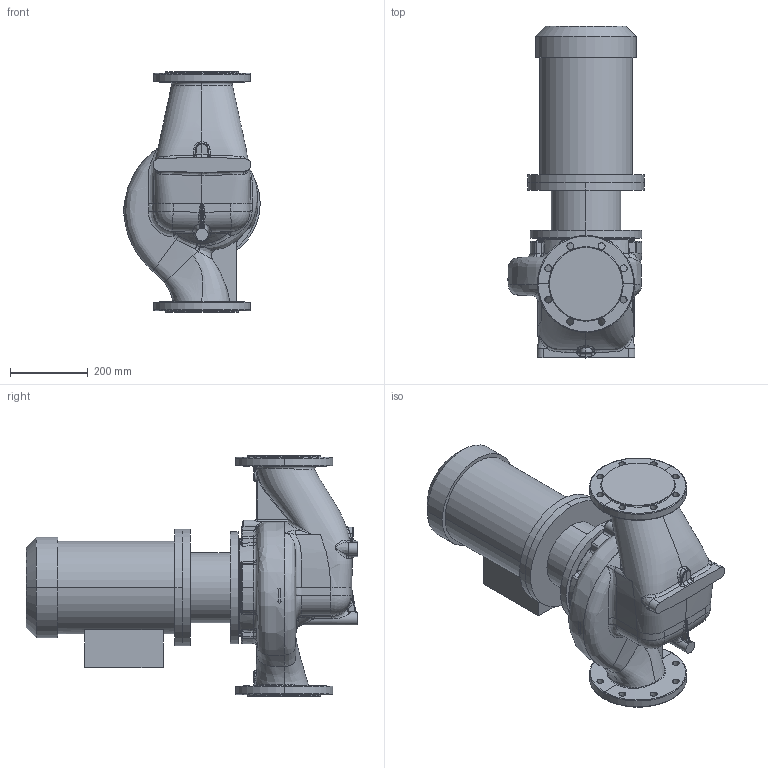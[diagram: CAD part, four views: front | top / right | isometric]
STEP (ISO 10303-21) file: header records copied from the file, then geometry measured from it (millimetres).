
FILE_DESCRIPTION (( 'STEP AP203' ), '1' );
FILE_NAME ('KRL 125-160-185_4-5,5.STEP', '2026-05-12T13:35:37', ( '' ), ( '' ), 'SwSTEP 2.0', 'SolidWorks 2016', '' );
FILE_SCHEMA (( 'CONFIG_CONTROL_DESIGN' ));
Length unit declared in the file: millimetre
Products named in the file (1): KRL 125-160-185_4-5,5
Bounding box: 351.32 x 854.8 x 620 mm (x, y, z)
Volume: 54246589.2 mm3; surface area: 1734412.7 mm2
Topology: 4 solids, 4 shells, 630 faces, 1557 edges, 939 vertices
Faces by surface type: bspline 290, cylinder 158, plane 97, torus 41, cone 32, sphere 12
Entity records: 63070 total; most frequent: CARTESIAN_POINT 50690, ORIENTED_EDGE 3086, DIRECTION 1855, EDGE_CURVE 1543, VERTEX_POINT 939, AXIS2_PLACEMENT_3D 791, B_SPLINE_CURVE_WITH_KNOTS 733, EDGE_LOOP 680
